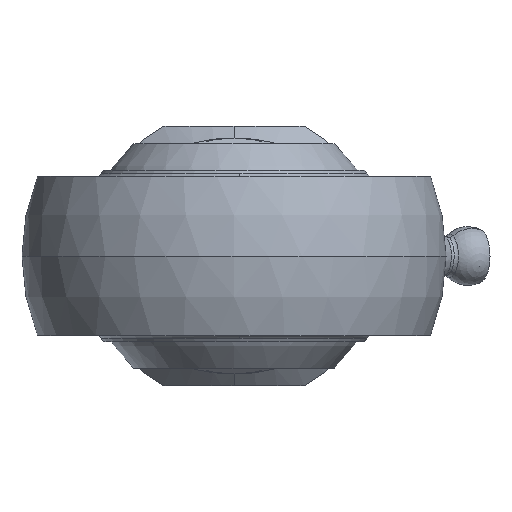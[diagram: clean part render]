
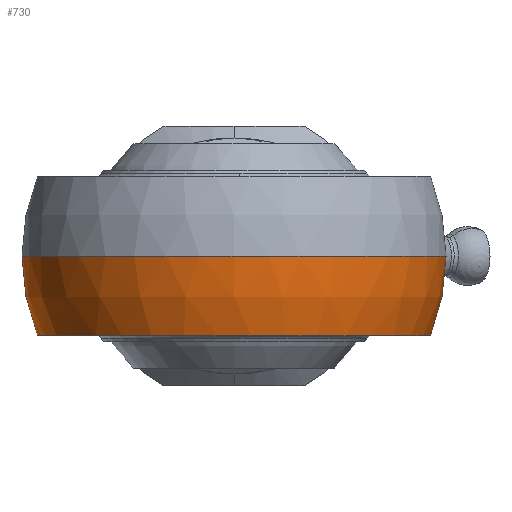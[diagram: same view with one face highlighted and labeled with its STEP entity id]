
A CAD part, left-side view. The second image highlights one B-rep face of the part: STEP entity #730.
In plain terms, the highlighted spherical face has radius 18 mm.
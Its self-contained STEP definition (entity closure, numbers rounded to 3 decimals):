
#709 = VERTEX_POINT ( 'NONE', #2427 ) ;
#710 = ORIENTED_EDGE ( 'NONE', *, *, #711, .T. ) ;
#711 = EDGE_CURVE ( 'NONE', #709, #720, #1692, .T. ) ;
#718 = ORIENTED_EDGE ( 'NONE', *, *, #1178, .F. ) ;
#720 = VERTEX_POINT ( 'NONE', #2481 ) ;
#722 = VERTEX_POINT ( 'NONE', #2479 ) ;
#726 = ORIENTED_EDGE ( 'NONE', *, *, #727, .T. ) ;
#727 = EDGE_CURVE ( 'NONE', #722, #709, #2473, .T. ) ;
#730 = ADVANCED_FACE ( 'NONE', ( #2468 ), #2460, .T. ) ;
#732 = EDGE_LOOP ( 'NONE', ( #726, #710, #718, #743, #746 ) ) ;
#737 = EDGE_CURVE ( 'NONE', #1179, #741, #2547, .T. ) ;
#739 = EDGE_CURVE ( 'NONE', #741, #722, #2541, .T. ) ;
#741 = VERTEX_POINT ( 'NONE', #2542 ) ;
#743 = ORIENTED_EDGE ( 'NONE', *, *, #737, .T. ) ;
#746 = ORIENTED_EDGE ( 'NONE', *, *, #739, .T. ) ;
#1178 = EDGE_CURVE ( 'NONE', #1179, #720, #3299, .T. ) ;
#1179 = VERTEX_POINT ( 'NONE', #3353 ) ;
#1692 = CIRCLE ( 'NONE', #1928, 18. ) ;
#1928 = AXIS2_PLACEMENT_3D ( 'NONE', #1929, #2175, #2426 ) ;
#1929 = CARTESIAN_POINT ( 'NONE',  ( 0., 0., 0. ) ) ;
#2175 = DIRECTION ( 'NONE',  ( 0., 0., -1. ) ) ;
#2426 = DIRECTION ( 'NONE',  ( 0., 1., 0. ) ) ;
#2427 = CARTESIAN_POINT ( 'NONE',  ( 6.76, -16.682, 0. ) ) ;
#2457 = DIRECTION ( 'NONE',  ( 0., 1., 0. ) ) ;
#2458 = AXIS2_PLACEMENT_3D ( 'NONE', #2459, #2466, #2457 ) ;
#2459 = CARTESIAN_POINT ( 'NONE',  ( 0., 0., 0. ) ) ;
#2460 = SPHERICAL_SURFACE ( 'NONE', #2458, 18. ) ;
#2466 = DIRECTION ( 'NONE',  ( 0., 0., -1. ) ) ;
#2468 = FACE_OUTER_BOUND ( 'NONE', #732, .T. ) ;
#2469 = DIRECTION ( 'NONE',  ( 0., 0., 1. ) ) ;
#2470 = DIRECTION ( 'NONE',  ( -1., 0., 0. ) ) ;
#2471 = CARTESIAN_POINT ( 'NONE',  ( 6.76, 0., 0. ) ) ;
#2472 = AXIS2_PLACEMENT_3D ( 'NONE', #2471, #2470, #2469 ) ;
#2473 = CIRCLE ( 'NONE', #2472, 16.682 ) ;
#2479 = CARTESIAN_POINT ( 'NONE',  ( 6.76, -15.256, -6.75 ) ) ;
#2481 = CARTESIAN_POINT ( 'NONE',  ( -18., 0., 0. ) ) ;
#2537 = DIRECTION ( 'NONE',  ( 1., 0., 0. ) ) ;
#2538 = DIRECTION ( 'NONE',  ( 0., 0., 1. ) ) ;
#2539 = CARTESIAN_POINT ( 'NONE',  ( 0., 0., -6.75 ) ) ;
#2540 = AXIS2_PLACEMENT_3D ( 'NONE', #2539, #2538, #2537 ) ;
#2541 = CIRCLE ( 'NONE', #2540, 16.686 ) ;
#2542 = CARTESIAN_POINT ( 'NONE',  ( 6.76, 15.256, -6.75 ) ) ;
#2543 = DIRECTION ( 'NONE',  ( 0., 0., 1. ) ) ;
#2544 = DIRECTION ( 'NONE',  ( -1., 0., 0. ) ) ;
#2545 = CARTESIAN_POINT ( 'NONE',  ( 6.76, 0., 0. ) ) ;
#2546 = AXIS2_PLACEMENT_3D ( 'NONE', #2545, #2544, #2543 ) ;
#2547 = CIRCLE ( 'NONE', #2546, 16.682 ) ;
#3299 = CIRCLE ( 'NONE', #3357, 18. ) ;
#3353 = CARTESIAN_POINT ( 'NONE',  ( 6.76, 16.682, 0. ) ) ;
#3354 = DIRECTION ( 'NONE',  ( 1., 0., 0. ) ) ;
#3355 = DIRECTION ( 'NONE',  ( 0., 0., 1. ) ) ;
#3356 = CARTESIAN_POINT ( 'NONE',  ( 0., 0., 0. ) ) ;
#3357 = AXIS2_PLACEMENT_3D ( 'NONE', #3356, #3355, #3354 ) ;
